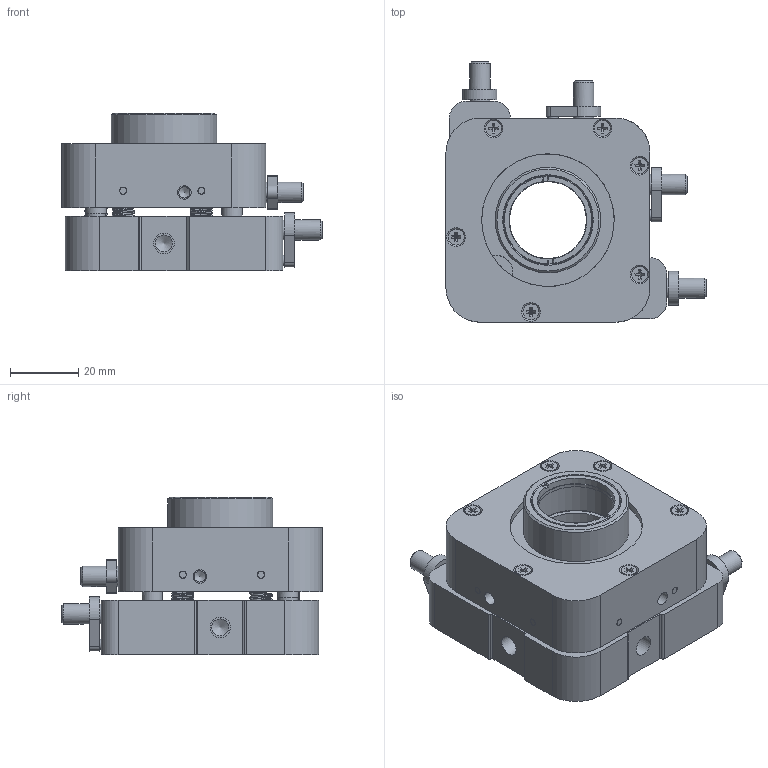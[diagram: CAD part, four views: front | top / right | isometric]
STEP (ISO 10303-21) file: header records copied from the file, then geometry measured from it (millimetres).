
FILE_DESCRIPTION (( 'STEP AP203' ), '1' );
FILE_NAME ('(step)M-SFLH-1.STEP', '2020-12-11T07:59:17', ( '' ), ( '' ), 'SwSTEP 2.0', 'SolidWorks 2019', '' );
FILE_SCHEMA (( 'CONFIG_CONTROL_DESIGN' ));
Products named in the file (1): (step)M-SFLH-1
Bounding box: 76.49 x 76.6 x 46.35 mm (x, y, z)
Volume: 80424.8 mm3; surface area: 37374.8 mm2
Topology: 6 solids, 20 shells, 1015 faces, 2826 edges, 1773 vertices
Faces by surface type: plane 406, cylinder 332, bspline 139, cone 58, torus 40, sphere 40
Full cylindrical faces by diameter (mm): 0.5 x8, 0.7 x1, 2 x10, 2.05 x2, 2.1 x14, 2.5 x9, 2.6 x4, 2.8 x6, 2.9 x6, 3 x9, 3.017 x2, 3.3 x5, 3.5 x4, 4 x2, 4.7 x6, 5 x6, 5.5 x3, 5.647 x12, 5.75 x2, 6 x14, 7 x9, 22.6 x1, 22.9 x1, 24 x1, 25.4 x1, 25.654 x1, 26.5 x1, 30 x1, 31 x1, 34 x1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
Entity records: 155768 total; most frequent: CARTESIAN_POINT 134798, ORIENTED_EDGE 4408, DIRECTION 3952, EDGE_CURVE 2204, AXIS2_PLACEMENT_3D 1589, VERTEX_POINT 1472, EDGE_LOOP 1408, FACE_OUTER_BOUND 1141
